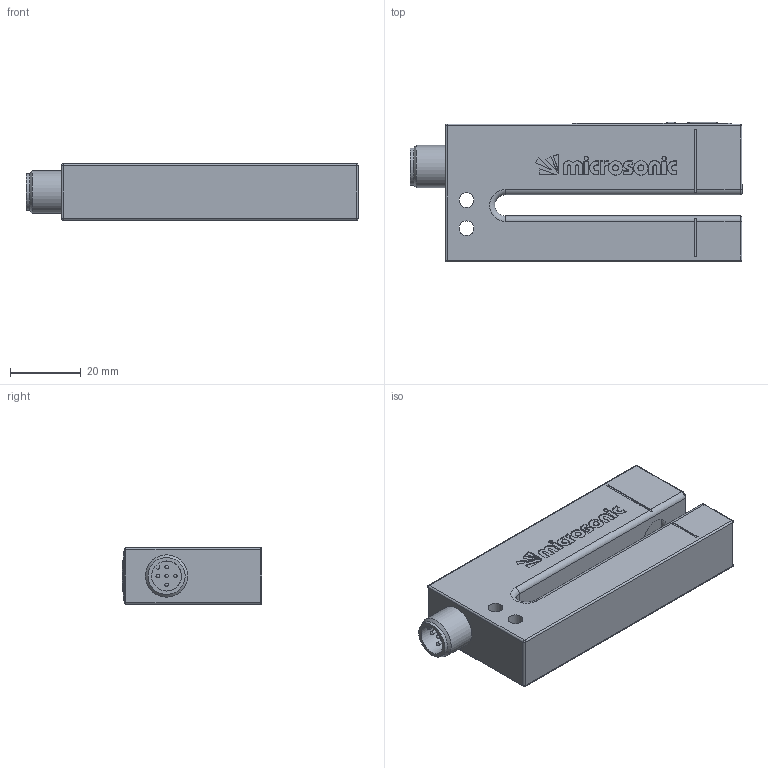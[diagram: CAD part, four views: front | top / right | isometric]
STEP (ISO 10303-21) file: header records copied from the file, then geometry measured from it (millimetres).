
FILE_DESCRIPTION((''),'2;1');
FILE_NAME('J:\Projekte\Kunststoff-Blechteile\Zeichnungen\Bibliothek Inventor\3D Solids\esf\STP\esf-1_CXX V2.stp','2011-05-17T09:51:58',('Oliver Liedtke'),(''),'Autodesk Inventor 2009','Autodesk Inventor 2009','');
FILE_SCHEMA(('AUTOMOTIVE_DESIGN { 1 0 10303 214 1 1 1 1 }'));
Length unit declared in the file: millimetre
Products named in the file (1): esf-1_CXX V2
Bounding box: 94 x 39.6 x 16 mm (x, y, z)
Volume: 44439.3 mm3; surface area: 13188.9 mm2
Topology: 1 solids, 3 shells, 356 faces, 898 edges, 564 vertices
Faces by surface type: plane 208, cone 59, cylinder 55, sphere 25, torus 6, bspline 3
Full cylindrical faces by diameter (mm): 1 x5, 8.5 x1, 9 x4, 10.3 x2, 10.5 x1, 12 x1
Entity records: 10587 total; most frequent: CARTESIAN_POINT 1923, DIRECTION 1742, ORIENTED_EDGE 1642, EDGE_CURVE 821, AXIS2_PLACEMENT_3D 617, VERTEX_POINT 549, VECTOR 508, LINE 508
